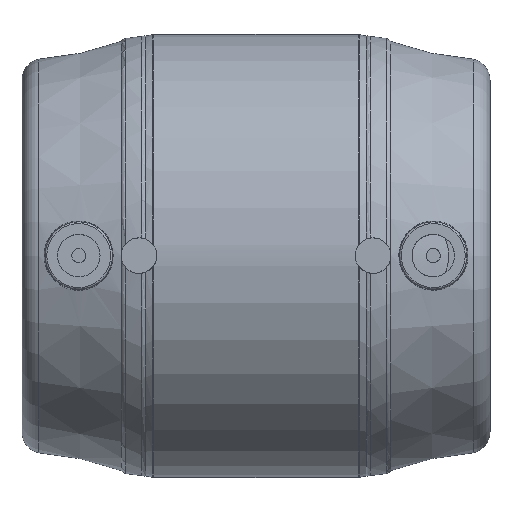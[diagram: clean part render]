
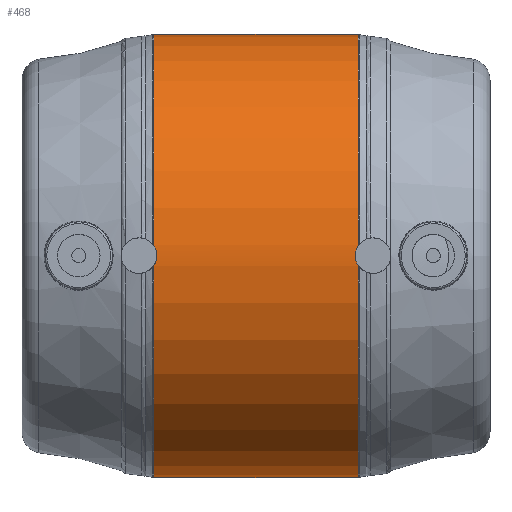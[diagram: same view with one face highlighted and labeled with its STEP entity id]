
A CAD part, top view. The second image highlights one B-rep face of the part: STEP entity #468.
In plain terms, the highlighted cylindrical face has radius 62.5 mm (diameter 125 mm), a full revolution.
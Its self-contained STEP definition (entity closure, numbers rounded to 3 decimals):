
#31=CYLINDRICAL_SURFACE('',#530,62.5);
#54=B_SPLINE_CURVE_WITH_KNOTS('',3,(#812,#813,#814,#815),.UNSPECIFIED.,
 .F.,.F.,(4,4),(0.,0.003),.UNSPECIFIED.);
#55=B_SPLINE_CURVE_WITH_KNOTS('',3,(#817,#818,#819,#820),.UNSPECIFIED.,
 .F.,.F.,(4,4),(0.003,0.006),.UNSPECIFIED.);
#56=B_SPLINE_CURVE_WITH_KNOTS('',3,(#824,#825,#826,#827),.UNSPECIFIED.,
 .F.,.F.,(4,4),(0.,0.003),.UNSPECIFIED.);
#57=B_SPLINE_CURVE_WITH_KNOTS('',3,(#829,#830,#831,#832),.UNSPECIFIED.,
 .F.,.F.,(4,4),(0.003,0.006),.UNSPECIFIED.);
#99=ORIENTED_EDGE('',*,*,#215,.T.);
#100=ORIENTED_EDGE('',*,*,#216,.T.);
#101=ORIENTED_EDGE('',*,*,#217,.T.);
#102=ORIENTED_EDGE('',*,*,#218,.T.);
#103=ORIENTED_EDGE('',*,*,#219,.T.);
#104=ORIENTED_EDGE('',*,*,#220,.T.);
#215=EDGE_CURVE('',#275,#276,#314,.F.);
#216=EDGE_CURVE('',#276,#277,#54,.T.);
#217=EDGE_CURVE('',#277,#275,#55,.T.);
#218=EDGE_CURVE('',#278,#279,#315,.T.);
#219=EDGE_CURVE('',#279,#280,#56,.T.);
#220=EDGE_CURVE('',#280,#278,#57,.T.);
#275=VERTEX_POINT('',#810);
#276=VERTEX_POINT('',#811);
#277=VERTEX_POINT('',#816);
#278=VERTEX_POINT('',#822);
#279=VERTEX_POINT('',#823);
#280=VERTEX_POINT('',#828);
#314=CIRCLE('',#531,62.5);
#315=CIRCLE('',#532,62.5);
#349=EDGE_LOOP('',(#99,#100,#101));
#350=EDGE_LOOP('',(#102,#103,#104));
#408=FACE_BOUND('',#349,.T.);
#409=FACE_BOUND('',#350,.T.);
#468=ADVANCED_FACE('',(#408,#409),#31,.T.);
#530=AXIS2_PLACEMENT_3D('',#808,#620,#621);
#531=AXIS2_PLACEMENT_3D('',#809,#622,#623);
#532=AXIS2_PLACEMENT_3D('',#821,#624,#625);
#620=DIRECTION('',(-1.,0.,0.));
#621=DIRECTION('',(0.,0.,1.));
#622=DIRECTION('',(1.,0.,0.));
#623=DIRECTION('',(0.,0.,-1.));
#624=DIRECTION('',(1.,0.,0.));
#625=DIRECTION('',(0.,0.,-1.));
#808=CARTESIAN_POINT('',(-60.,0.,0.));
#809=CARTESIAN_POINT('',(28.893,0.,0.));
#810=CARTESIAN_POINT('',(28.893,2.851,62.435));
#811=CARTESIAN_POINT('',(28.893,-2.851,62.435));
#812=CARTESIAN_POINT('',(28.893,-2.851,62.435));
#813=CARTESIAN_POINT('',(28.31,-2.013,62.473));
#814=CARTESIAN_POINT('',(28.,-1.013,62.5));
#815=CARTESIAN_POINT('',(28.,0.,62.5));
#816=CARTESIAN_POINT('',(28.,0.,62.5));
#817=CARTESIAN_POINT('',(28.,0.,62.5));
#818=CARTESIAN_POINT('',(28.,1.01,62.5));
#819=CARTESIAN_POINT('',(28.312,2.015,62.473));
#820=CARTESIAN_POINT('',(28.893,2.851,62.435));
#821=CARTESIAN_POINT('',(-28.893,0.,0.));
#822=CARTESIAN_POINT('',(-28.893,-2.851,62.435));
#823=CARTESIAN_POINT('',(-28.893,2.851,62.435));
#824=CARTESIAN_POINT('',(-28.893,2.851,62.435));
#825=CARTESIAN_POINT('',(-28.31,2.013,62.473));
#826=CARTESIAN_POINT('',(-28.,1.013,62.5));
#827=CARTESIAN_POINT('',(-28.,0.,62.5));
#828=CARTESIAN_POINT('',(-28.,0.,62.5));
#829=CARTESIAN_POINT('',(-28.,0.,62.5));
#830=CARTESIAN_POINT('',(-28.,-1.01,62.5));
#831=CARTESIAN_POINT('',(-28.312,-2.015,62.473));
#832=CARTESIAN_POINT('',(-28.893,-2.851,62.435));
